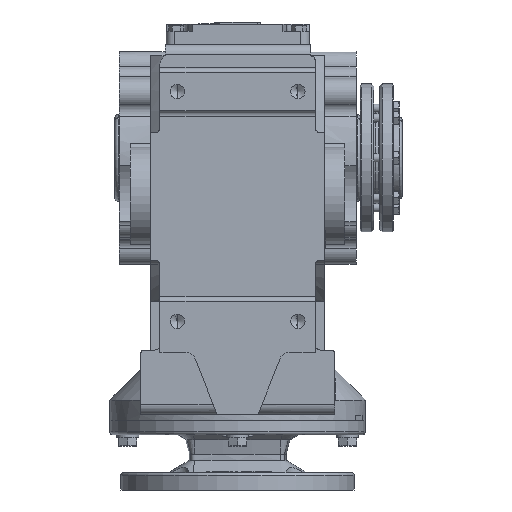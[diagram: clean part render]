
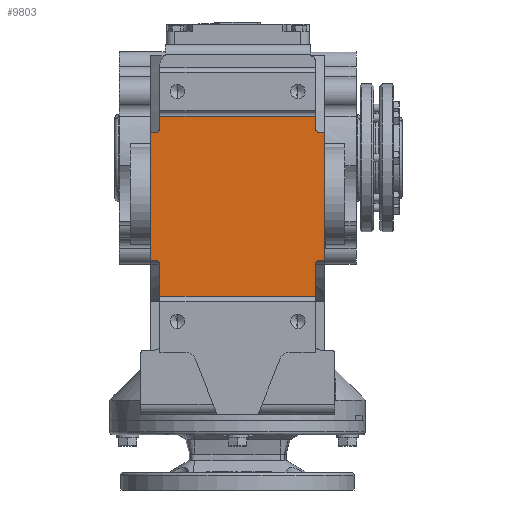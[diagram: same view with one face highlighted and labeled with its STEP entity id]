
A CAD part, front view. The second image highlights one B-rep face of the part: STEP entity #9803.
In plain terms, the highlighted planar face has unit normal (0, -1, 0).
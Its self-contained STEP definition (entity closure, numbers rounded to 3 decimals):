
#25 = CARTESIAN_POINT ( 'NONE',  ( 76., -206., -100. ) ) ;
#30 = DIRECTION ( 'NONE',  ( 1., 0., 0. ) ) ;
#410 = EDGE_CURVE ( 'NONE', #22192, #22104, #29846, .T. ) ;
#562 = EDGE_CURVE ( 'NONE', #45952, #21987, #29929, .T. ) ;
#584 = EDGE_CURVE ( 'NONE', #21987, #41102, #29947, .T. ) ;
#589 = EDGE_CURVE ( 'NONE', #22120, #43948, #29946, .T. ) ;
#774 = EDGE_CURVE ( 'NONE', #22146, #62741, #30056, .T. ) ;
#2453 = EDGE_CURVE ( 'NONE', #43930, #62832, #30173, .T. ) ;
#2520 = EDGE_CURVE ( 'NONE', #43930, #62727, #30214, .T. ) ;
#2742 = EDGE_CURVE ( 'NONE', #62727, #62741, #30364, .T. ) ;
#3609 = ORIENTED_EDGE ( 'NONE', *, *, #34627, .T. ) ;
#3622 = ORIENTED_EDGE ( 'NONE', *, *, #584, .F. ) ;
#3638 = ORIENTED_EDGE ( 'NONE', *, *, #410, .F. ) ;
#3646 = ORIENTED_EDGE ( 'NONE', *, *, #774, .F. ) ;
#3773 = ORIENTED_EDGE ( 'NONE', *, *, #562, .F. ) ;
#4552 = FACE_OUTER_BOUND ( 'NONE', #52281, .T. ) ;
#5019 = CARTESIAN_POINT ( 'NONE',  ( -81., -206., 29.651 ) ) ;
#5020 = DIRECTION ( 'NONE',  ( 0., 1., 0. ) ) ;
#5021 = DIRECTION ( 'NONE',  ( 0., 0., -1. ) ) ;
#5138 = CARTESIAN_POINT ( 'NONE',  ( -112., -206., 41. ) ) ;
#5139 = DIRECTION ( 'NONE',  ( -1., 0., 0. ) ) ;
#8489 = CARTESIAN_POINT ( 'NONE',  ( -112., -206., -135.346 ) ) ;
#8494 = DIRECTION ( 'NONE',  ( 1., 0., 0. ) ) ;
#9410 = CARTESIAN_POINT ( 'NONE',  ( -112., -206., 7. ) ) ;
#9417 = PLANE ( 'NONE',  #40132 ) ;
#9420 = DIRECTION ( 'NONE',  ( 0., -1., 0. ) ) ;
#9422 = DIRECTION ( 'NONE',  ( 0., 0., -1. ) ) ;
#9803 = ADVANCED_FACE ( 'NONE', ( #4552 ), #9417, .T. ) ;
#11224 = CARTESIAN_POINT ( 'NONE',  ( 81., -206., 24.651 ) ) ;
#11309 = CARTESIAN_POINT ( 'NONE',  ( 81., -206., -100. ) ) ;
#11335 = CARTESIAN_POINT ( 'NONE',  ( 85., -206., -100. ) ) ;
#11337 = CARTESIAN_POINT ( 'NONE',  ( -81., -206., -100. ) ) ;
#11488 = CARTESIAN_POINT ( 'NONE',  ( 76., -206., -135.346 ) ) ;
#11516 = CARTESIAN_POINT ( 'NONE',  ( -76., -206., -105. ) ) ;
#12627 = DIRECTION ( 'NONE',  ( 0., 0., -1. ) ) ;
#12637 = DIRECTION ( 'NONE',  ( 0., 1., 0. ) ) ;
#12642 = CARTESIAN_POINT ( 'NONE',  ( 81., -206., -105. ) ) ;
#19092 = CARTESIAN_POINT ( 'NONE',  ( -76., -206., -135.346 ) ) ;
#19146 = CARTESIAN_POINT ( 'NONE',  ( 76., -206., -105. ) ) ;
#19157 = CARTESIAN_POINT ( 'NONE',  ( 76., -206., 29.651 ) ) ;
#19747 = CARTESIAN_POINT ( 'NONE',  ( -85., -206., -100. ) ) ;
#20625 = CARTESIAN_POINT ( 'NONE',  ( -76., -206., -103. ) ) ;
#20627 = DIRECTION ( 'NONE',  ( 0., 0., 1. ) ) ;
#21554 = ORIENTED_EDGE ( 'NONE', *, *, #49110, .F. ) ;
#21578 = ORIENTED_EDGE ( 'NONE', *, *, #34249, .T. ) ;
#21592 = ORIENTED_EDGE ( 'NONE', *, *, #589, .F. ) ;
#21611 = ORIENTED_EDGE ( 'NONE', *, *, #34564, .T. ) ;
#21653 = ORIENTED_EDGE ( 'NONE', *, *, #34168, .F. ) ;
#21987 = VERTEX_POINT ( 'NONE', #39148 ) ;
#22104 = VERTEX_POINT ( 'NONE', #39329 ) ;
#22120 = VERTEX_POINT ( 'NONE', #39355 ) ;
#22146 = VERTEX_POINT ( 'NONE', #39394 ) ;
#22192 = VERTEX_POINT ( 'NONE', #39464 ) ;
#23803 = ORIENTED_EDGE ( 'NONE', *, *, #2453, .F. ) ;
#23809 = ORIENTED_EDGE ( 'NONE', *, *, #2520, .T. ) ;
#23813 = ORIENTED_EDGE ( 'NONE', *, *, #24437, .T. ) ;
#23819 = ORIENTED_EDGE ( 'NONE', *, *, #49024, .F. ) ;
#23823 = ORIENTED_EDGE ( 'NONE', *, *, #49069, .T. ) ;
#23839 = ORIENTED_EDGE ( 'NONE', *, *, #2742, .T. ) ;
#24437 = EDGE_CURVE ( 'NONE', #43832, #62832, #58835, .T. ) ;
#26140 = DIRECTION ( 'NONE',  ( 0., 0., -1. ) ) ;
#26241 = CARTESIAN_POINT ( 'NONE',  ( 85., -206., 7. ) ) ;
#29170 = DIRECTION ( 'NONE',  ( 1., 0., 0. ) ) ;
#29174 = CARTESIAN_POINT ( 'NONE',  ( -76., -206., 24.651 ) ) ;
#29183 = CARTESIAN_POINT ( 'NONE',  ( -76., -206., 46. ) ) ;
#29221 = DIRECTION ( 'NONE',  ( 0., 0., 1. ) ) ;
#29348 = CARTESIAN_POINT ( 'NONE',  ( -85., -206., 7. ) ) ;
#29351 = DIRECTION ( 'NONE',  ( 0., 0., 1. ) ) ;
#29846 = LINE ( 'NONE', #29183, #29862 ) ;
#29862 = VECTOR ( 'NONE', #29221, 1000. ) ;
#29929 = LINE ( 'NONE', #29348, #29935 ) ;
#29935 = VECTOR ( 'NONE', #29351, 1000. ) ;
#29946 = LINE ( 'NONE', #30663, #29950 ) ;
#29947 = LINE ( 'NONE', #29174, #29948 ) ;
#29948 = VECTOR ( 'NONE', #29170, 1000. ) ;
#29950 = VECTOR ( 'NONE', #30704, 1000. ) ;
#30056 = LINE ( 'NONE', #26241, #30058 ) ;
#30058 = VECTOR ( 'NONE', #26140, 1000. ) ;
#30173 = LINE ( 'NONE', #56697, #30175 ) ;
#30175 = VECTOR ( 'NONE', #56700, 1000. ) ;
#30214 = CIRCLE ( 'NONE', #31977, 5. ) ;
#30364 = LINE ( 'NONE', #25, #30366 ) ;
#30366 = VECTOR ( 'NONE', #30, 1000. ) ;
#30663 = CARTESIAN_POINT ( 'NONE',  ( 76., -206., 46. ) ) ;
#30704 = DIRECTION ( 'NONE',  ( 0., 0., -1. ) ) ;
#31977 = AXIS2_PLACEMENT_3D ( 'NONE', #12642, #12637, #12627 ) ;
#34168 = EDGE_CURVE ( 'NONE', #62742, #45952, #44562, .T. ) ;
#34249 = EDGE_CURVE ( 'NONE', #62675, #43948, #44610, .T. ) ;
#34564 = EDGE_CURVE ( 'NONE', #22192, #41102, #44758, .T. ) ;
#34627 = EDGE_CURVE ( 'NONE', #22120, #22104, #44832, .T. ) ;
#36698 = AXIS2_PLACEMENT_3D ( 'NONE', #42876, #42877, #42878 ) ;
#36782 = AXIS2_PLACEMENT_3D ( 'NONE', #5019, #5020, #5021 ) ;
#37088 = AXIS2_PLACEMENT_3D ( 'NONE', #59341, #59342, #59343 ) ;
#39148 = CARTESIAN_POINT ( 'NONE',  ( -85., -206., 24.651 ) ) ;
#39329 = CARTESIAN_POINT ( 'NONE',  ( -76., -206., 41. ) ) ;
#39355 = CARTESIAN_POINT ( 'NONE',  ( 76., -206., 41. ) ) ;
#39394 = CARTESIAN_POINT ( 'NONE',  ( 85., -206., 24.651 ) ) ;
#39464 = CARTESIAN_POINT ( 'NONE',  ( -76., -206., 29.651 ) ) ;
#40132 = AXIS2_PLACEMENT_3D ( 'NONE', #9410, #9420, #9422 ) ;
#41102 = VERTEX_POINT ( 'NONE', #48588 ) ;
#42729 = CARTESIAN_POINT ( 'NONE',  ( -76., -206., -100. ) ) ;
#42730 = DIRECTION ( 'NONE',  ( -1., 0., 0. ) ) ;
#42876 = CARTESIAN_POINT ( 'NONE',  ( 81., -206., 29.651 ) ) ;
#42877 = DIRECTION ( 'NONE',  ( 0., 1., 0. ) ) ;
#42878 = DIRECTION ( 'NONE',  ( 0., 0., -1. ) ) ;
#43832 = VERTEX_POINT ( 'NONE', #19092 ) ;
#43930 = VERTEX_POINT ( 'NONE', #19146 ) ;
#43948 = VERTEX_POINT ( 'NONE', #19157 ) ;
#44562 = LINE ( 'NONE', #42729, #44565 ) ;
#44565 = VECTOR ( 'NONE', #42730, 1000. ) ;
#44610 = CIRCLE ( 'NONE', #36698, 5. ) ;
#44758 = CIRCLE ( 'NONE', #36782, 5. ) ;
#44832 = LINE ( 'NONE', #5138, #44835 ) ;
#44835 = VECTOR ( 'NONE', #5139, 1000. ) ;
#45952 = VERTEX_POINT ( 'NONE', #19747 ) ;
#48588 = CARTESIAN_POINT ( 'NONE',  ( -81., -206., 24.651 ) ) ;
#49024 = EDGE_CURVE ( 'NONE', #43832, #62848, #49431, .T. ) ;
#49069 = EDGE_CURVE ( 'NONE', #62742, #62848, #49495, .T. ) ;
#49110 = EDGE_CURVE ( 'NONE', #62675, #22146, #49549, .T. ) ;
#49431 = LINE ( 'NONE', #20625, #49433 ) ;
#49433 = VECTOR ( 'NONE', #20627, 1000. ) ;
#49495 = CIRCLE ( 'NONE', #37088, 5. ) ;
#49549 = LINE ( 'NONE', #59469, #49552 ) ;
#49552 = VECTOR ( 'NONE', #59470, 1000. ) ;
#52281 = EDGE_LOOP ( 'NONE', ( #21592, #3609, #3638, #21611, #3622, #3773, #21653, #23823, #23819, #23813, #23803, #23809, #23839, #3646, #21554, #21578 ) ) ;
#56697 = CARTESIAN_POINT ( 'NONE',  ( 76., -206., -100. ) ) ;
#56700 = DIRECTION ( 'NONE',  ( 0., 0., -1. ) ) ;
#58835 = LINE ( 'NONE', #8489, #58839 ) ;
#58839 = VECTOR ( 'NONE', #8494, 1000. ) ;
#59341 = CARTESIAN_POINT ( 'NONE',  ( -81., -206., -105. ) ) ;
#59342 = DIRECTION ( 'NONE',  ( 0., 1., 0. ) ) ;
#59343 = DIRECTION ( 'NONE',  ( 0., 0., -1. ) ) ;
#59469 = CARTESIAN_POINT ( 'NONE',  ( 85., -206., 24.651 ) ) ;
#59470 = DIRECTION ( 'NONE',  ( 1., 0., 0. ) ) ;
#62675 = VERTEX_POINT ( 'NONE', #11224 ) ;
#62727 = VERTEX_POINT ( 'NONE', #11309 ) ;
#62741 = VERTEX_POINT ( 'NONE', #11335 ) ;
#62742 = VERTEX_POINT ( 'NONE', #11337 ) ;
#62832 = VERTEX_POINT ( 'NONE', #11488 ) ;
#62848 = VERTEX_POINT ( 'NONE', #11516 ) ;
